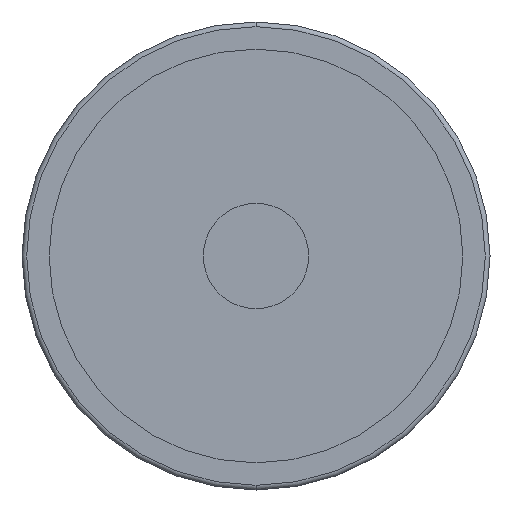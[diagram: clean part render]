
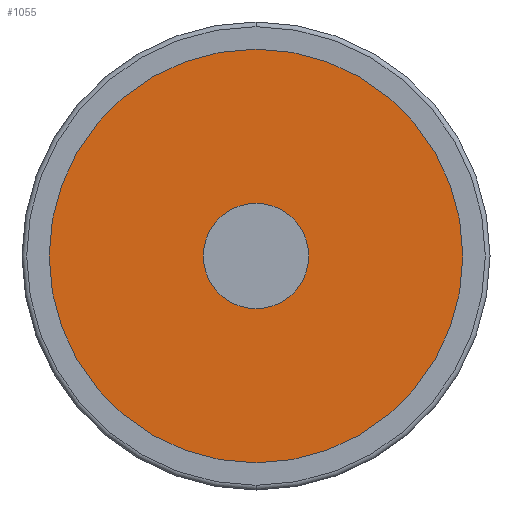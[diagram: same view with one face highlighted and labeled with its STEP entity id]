
A CAD part, front view. The second image highlights one B-rep face of the part: STEP entity #1055.
In plain terms, the highlighted planar face has unit normal (0, -1, 0).
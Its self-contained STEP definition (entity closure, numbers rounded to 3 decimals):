
#26 = CARTESIAN_POINT ( 'NONE',  ( 0., 4.5, 0. ) ) ;
#30 = EDGE_CURVE ( 'NONE', #1459, #296, #216, .T. ) ;
#51 = CARTESIAN_POINT ( 'NONE',  ( 10.25, 4.5, 0. ) ) ;
#56 = CIRCLE ( 'NONE', #1352, 44.3 ) ;
#64 = FACE_BOUND ( 'NONE', #661, .T. ) ;
#116 = DIRECTION ( 'NONE',  ( 1., 0., 0. ) ) ;
#136 = ORIENTED_EDGE ( 'NONE', *, *, #1830, .T. ) ;
#216 = CIRCLE ( 'NONE', #1580, 10.25 ) ;
#267 = CARTESIAN_POINT ( 'NONE',  ( 0., 4.5, 0. ) ) ;
#296 = VERTEX_POINT ( 'NONE', #1235 ) ;
#312 = DIRECTION ( 'NONE',  ( 1., 0., 0. ) ) ;
#314 = DIRECTION ( 'NONE',  ( 1., 0., 0. ) ) ;
#332 = AXIS2_PLACEMENT_3D ( 'NONE', #2398, #2037, #314 ) ;
#406 = AXIS2_PLACEMENT_3D ( 'NONE', #1592, #463, #837 ) ;
#463 = DIRECTION ( 'NONE',  ( 0., -1., 0. ) ) ;
#643 = PLANE ( 'NONE',  #406 ) ;
#661 = EDGE_LOOP ( 'NONE', ( #822, #835 ) ) ;
#759 = ORIENTED_EDGE ( 'NONE', *, *, #2287, .T. ) ;
#822 = ORIENTED_EDGE ( 'NONE', *, *, #30, .F. ) ;
#823 = FACE_OUTER_BOUND ( 'NONE', #918, .T. ) ;
#835 = ORIENTED_EDGE ( 'NONE', *, *, #1560, .F. ) ;
#837 = DIRECTION ( 'NONE',  ( 1., 0., 0. ) ) ;
#885 = VERTEX_POINT ( 'NONE', #1366 ) ;
#918 = EDGE_LOOP ( 'NONE', ( #136, #759 ) ) ;
#1055 = ADVANCED_FACE ( 'NONE', ( #823, #64 ), #643, .T. ) ;
#1235 = CARTESIAN_POINT ( 'NONE',  ( -10.25, 4.5, 0. ) ) ;
#1273 = DIRECTION ( 'NONE',  ( 0., -1., 0. ) ) ;
#1296 = CARTESIAN_POINT ( 'NONE',  ( 44.3, 4.5, 0. ) ) ;
#1350 = CIRCLE ( 'NONE', #1586, 44.3 ) ;
#1352 = AXIS2_PLACEMENT_3D ( 'NONE', #267, #1273, #312 ) ;
#1366 = CARTESIAN_POINT ( 'NONE',  ( -44.3, 4.5, 0. ) ) ;
#1415 = DIRECTION ( 'NONE',  ( 1., 0., 0. ) ) ;
#1459 = VERTEX_POINT ( 'NONE', #51 ) ;
#1560 = EDGE_CURVE ( 'NONE', #296, #1459, #2262, .T. ) ;
#1580 = AXIS2_PLACEMENT_3D ( 'NONE', #2407, #2035, #116 ) ;
#1586 = AXIS2_PLACEMENT_3D ( 'NONE', #26, #1937, #1415 ) ;
#1592 = CARTESIAN_POINT ( 'NONE',  ( -44.3, 4.5, 0. ) ) ;
#1830 = EDGE_CURVE ( 'NONE', #885, #2415, #1350, .T. ) ;
#1937 = DIRECTION ( 'NONE',  ( 0., -1., 0. ) ) ;
#2035 = DIRECTION ( 'NONE',  ( 0., -1., 0. ) ) ;
#2037 = DIRECTION ( 'NONE',  ( 0., -1., 0. ) ) ;
#2262 = CIRCLE ( 'NONE', #332, 10.25 ) ;
#2287 = EDGE_CURVE ( 'NONE', #2415, #885, #56, .T. ) ;
#2398 = CARTESIAN_POINT ( 'NONE',  ( 0., 4.5, 0. ) ) ;
#2407 = CARTESIAN_POINT ( 'NONE',  ( 0., 4.5, 0. ) ) ;
#2415 = VERTEX_POINT ( 'NONE', #1296 ) ;
